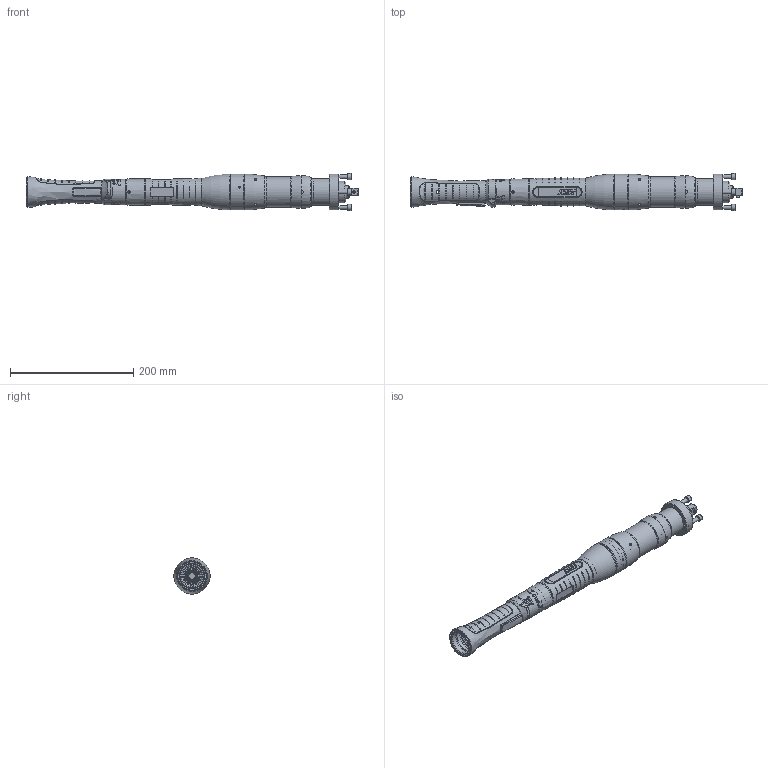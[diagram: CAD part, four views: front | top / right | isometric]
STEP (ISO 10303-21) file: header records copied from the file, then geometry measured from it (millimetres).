
FILE_DESCRIPTION (( 'STEP AP214' ), '1' );
FILE_NAME ('7900208_HCX2087ZV12_STEP.STEP', '2017-02-09T13:55:37', ( 'admin' ), ( '' ), 'SwSTEP 2.0', 'SolidWorks 2014', '' );
FILE_SCHEMA (( 'AUTOMOTIVE_DESIGN' ));
Length unit declared in the file: millimetre
Products named in the file (2): 7900208_HCX2087ZV12_STEP
Bounding box: 538.2 x 60 x 60 mm (x, y, z)
Volume: 306163 mm3; surface area: 196837.7 mm2
Topology: 21 solids, 21 shells, 1762 faces, 4386 edges, 2711 vertices
Faces by surface type: plane 533, cylinder 468, bspline 362, torus 219, cone 130, sphere 50
Full cylindrical faces by diameter (mm): 1.4 x2, 1.7 x2, 2 x2, 2.5 x3, 4 x3, 4.1 x12, 4.7 x1, 4.8 x1, 5 x4, 5.15 x1, 5.2 x1, 5.27 x1, 6 x4, 10 x4, 13.84 x1, 16.2 x1, 17 x2, 20 x1, 20.9 x1, 26 x2, 27 x1, 28 x1, 31 x1, 32 x1, 32.1 x1, 35 x2, 35.5 x1, 36 x2, 37 x1, 38 x1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
Entity records: 89093 total; most frequent: CARTESIAN_POINT 32373, ORIENTED_EDGE 8032, DIRECTION 6991, EDGE_CURVE 4016, AXIS2_PLACEMENT_3D 2939, VERTEX_POINT 2601, EDGE_LOOP 2145, FACE_OUTER_BOUND 1921
